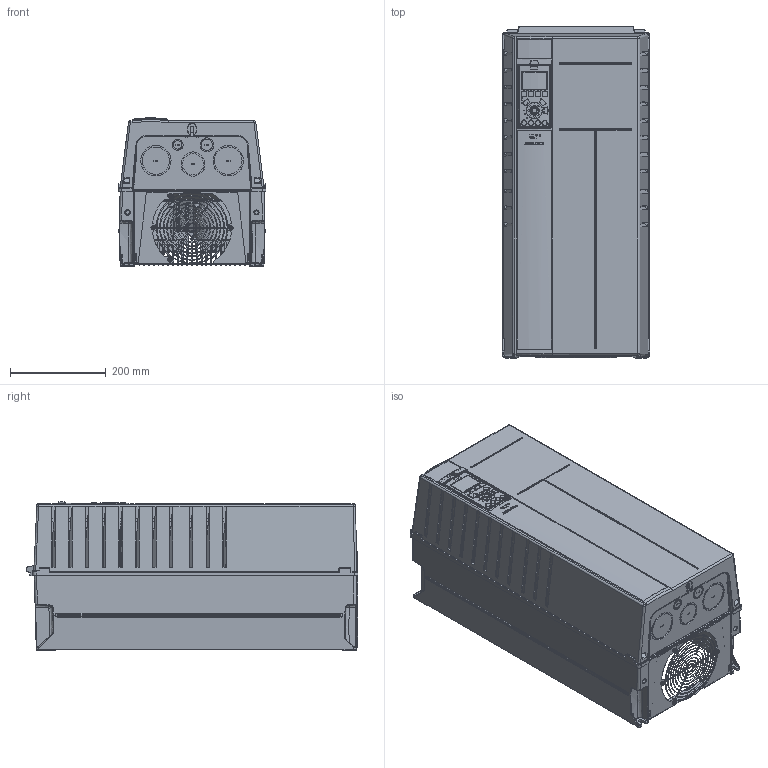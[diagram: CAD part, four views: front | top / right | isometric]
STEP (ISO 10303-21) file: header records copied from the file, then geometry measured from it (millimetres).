
FILE_DESCRIPTION((''),'2;1');
FILE_NAME('DANFOSS-FC200-C1-IP21','2011-10-13T',('cstephenkumar'),('Be-Atch INC. 1993'),'PRO/ENGINEER BY PARAMETRIC TECHNOLOGY CORPORATION, 2009360','PRO/ENGINEER BY PARAMETRIC TECHNOLOGY CORPORATION, 2009360','');
FILE_SCHEMA(('AUTOMOTIVE_DESIGN { 1 0 10303 214 1 1 1 1 }'));
Length unit declared in the file: millimetre
Products named in the file (1): DANFOSS-FC200-C1-IP21
Bounding box: 308.54 x 692.9 x 309.3 mm (x, y, z)
Volume: 42128604.7 mm3; surface area: 3357263.1 mm2
Topology: 1 solids, 22 shells, 5085 faces, 13268 edges, 8176 vertices
Faces by surface type: plane 1793, cylinder 1517, bspline 1113, cone 353, torus 275, sphere 28, extrusion 6
Entity records: 207657 total; most frequent: CARTESIAN_POINT 91193, ORIENTED_EDGE 26400, DIRECTION 20744, EDGE_CURVE 13200, VERTEX_POINT 8176, AXIS2_PLACEMENT_3D 7175, VECTOR 6394, LINE 6388
